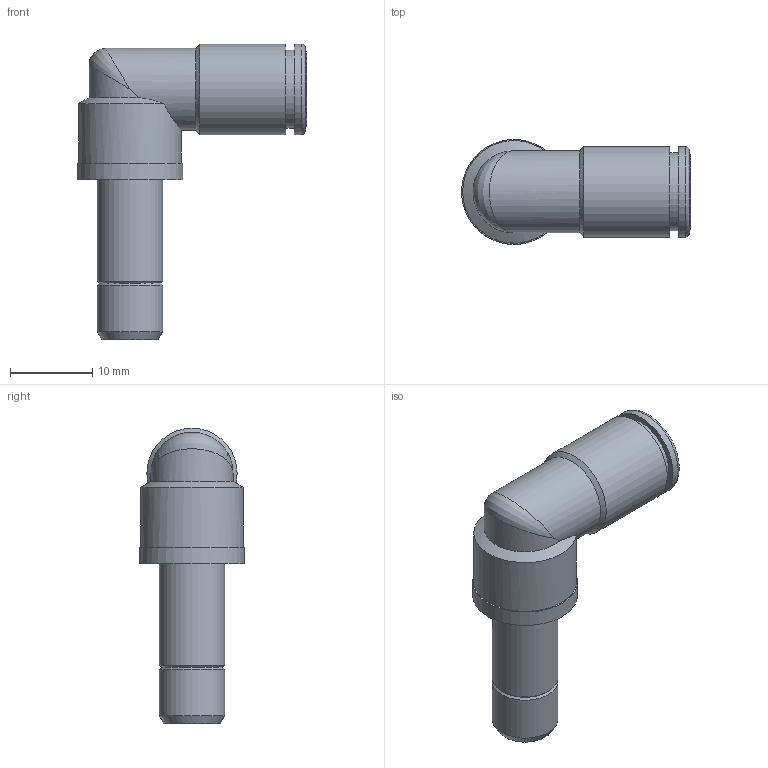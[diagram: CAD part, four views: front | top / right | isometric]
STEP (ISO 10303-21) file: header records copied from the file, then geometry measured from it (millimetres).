
FILE_DESCRIPTION(('Bauteilbeschreibung','HiCAD-Model','HiCAD-STEP-TRANSLATION','Bauteilbeschreibung'),'2;1');
FILE_NAME('B:/ABGLEICH/ZEICHNUNGEN/STEP FÜR INTERNET/STEP/IPSO 047/204708_IPSO_047_8_6.STP','2012-03-21T12:27:46+00:00',('Konstrukteur'),('Konstrukteur Firma GmbH'),' HiCAD neXt 2008, Step 3.1.1401.2J ','HiCAD neXt 2008','confidential');
FILE_SCHEMA(('AUTOMOTIVE_DESIGN { 1 2 10303 214 0 1 1 1 }'));
Length unit declared in the file: millimetre
Products named in the file (4): A04708_IPSO_047_8_6; A14651_N2; R202203_N2; DR6_1_NEU
Assembly tree (3 placements, depth 2):
  A04708_IPSO_047_8_6
    A14651_N2
    R202203_N2
    DR6_1_NEU
Bounding box: 27.9 x 12.8 x 36 mm (x, y, z)
Volume: 2458.2 mm3; surface area: 3838.1 mm2
Topology: 3 solids, 3 shells, 54 faces, 106 edges, 62 vertices
Faces by surface type: cylinder 22, cone 18, plane 12, bspline 1, torus 1
Full cylindrical faces by diameter (mm): 4 x1, 5.5 x1, 6 x2, 6.1 x1, 6.2 x1, 8 x2, 8.3 x1, 9 x3, 9.5 x1, 9.6 x1, 10 x1, 10.1 x2, 11 x2, 12.5 x1, 12.8 x1
Entity records: 2624 total; most frequent: CARTESIAN_POINT 1308, DIRECTION 224, ORIENTED_EDGE 118, AXIS2_PLACEMENT_3D 112, EDGE_LOOP 105, EDGE_CURVE 59, VERTEX_POINT 57, COLOUR_RGB 56
